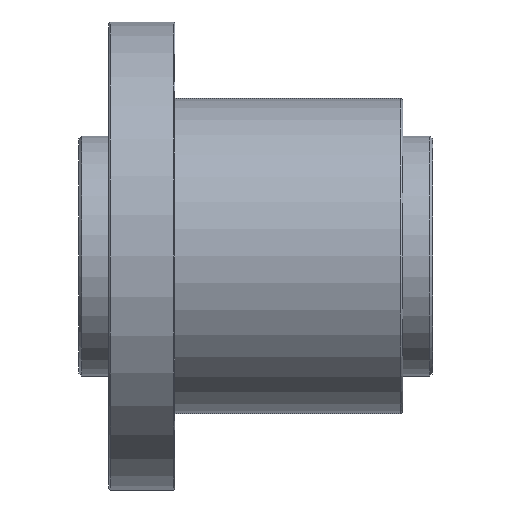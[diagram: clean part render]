
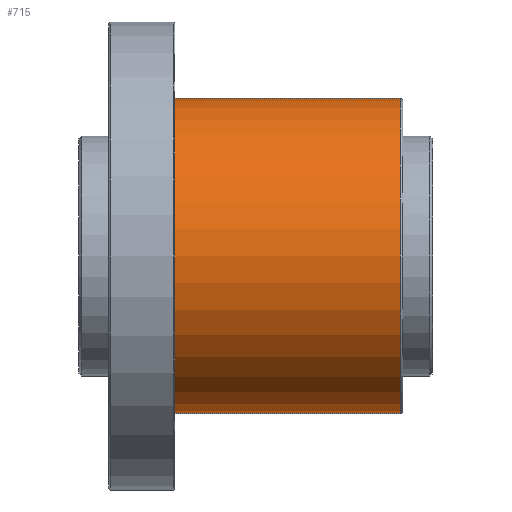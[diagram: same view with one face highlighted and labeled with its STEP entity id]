
A CAD part, front view. The second image highlights one B-rep face of the part: STEP entity #715.
In plain terms, the highlighted cylindrical face has radius 52.5 mm (diameter 105 mm), a partial arc.
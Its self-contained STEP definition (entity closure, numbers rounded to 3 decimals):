
#40 = ORIENTED_EDGE ( 'NONE', *, *, #1854, .F. ) ;
#116 = DIRECTION ( 'NONE',  ( -1., 0., 0. ) ) ;
#139 = CIRCLE ( 'NONE', #3194, 52.5 ) ;
#243 = DIRECTION ( 'NONE',  ( 0., 0., -1. ) ) ;
#434 = CARTESIAN_POINT ( 'NONE',  ( 22., 0., -52.5 ) ) ;
#540 = DIRECTION ( 'NONE',  ( -1., 0., 0. ) ) ;
#585 = LINE ( 'NONE', #2784, #3125 ) ;
#624 = EDGE_LOOP ( 'NONE', ( #3694, #3018, #1957, #40 ) ) ;
#715 = ADVANCED_FACE ( 'NONE', ( #1474 ), #2132, .T. ) ;
#1147 = LINE ( 'NONE', #1380, #3357 ) ;
#1225 = CARTESIAN_POINT ( 'NONE',  ( 22., 0., 52.5 ) ) ;
#1238 = DIRECTION ( 'NONE',  ( -1., 0., 0. ) ) ;
#1380 = CARTESIAN_POINT ( 'NONE',  ( 98., 0., -52.5 ) ) ;
#1474 = FACE_OUTER_BOUND ( 'NONE', #624, .T. ) ;
#1620 = EDGE_CURVE ( 'NONE', #3139, #3352, #585, .T. ) ;
#1660 = CARTESIAN_POINT ( 'NONE',  ( 97., 0., 52.5 ) ) ;
#1854 = EDGE_CURVE ( 'NONE', #2247, #3352, #139, .T. ) ;
#1900 = EDGE_CURVE ( 'NONE', #2870, #3139, #2977, .T. ) ;
#1949 = AXIS2_PLACEMENT_3D ( 'NONE', #2714, #3938, #243 ) ;
#1957 = ORIENTED_EDGE ( 'NONE', *, *, #1620, .T. ) ;
#2064 = AXIS2_PLACEMENT_3D ( 'NONE', #3078, #3390, #3106 ) ;
#2132 = CYLINDRICAL_SURFACE ( 'NONE', #2064, 52.5 ) ;
#2247 = VERTEX_POINT ( 'NONE', #434 ) ;
#2330 = EDGE_CURVE ( 'NONE', #2870, #2247, #1147, .T. ) ;
#2405 = CARTESIAN_POINT ( 'NONE',  ( 22., 0., 0. ) ) ;
#2704 = DIRECTION ( 'NONE',  ( 0., 0., 1. ) ) ;
#2714 = CARTESIAN_POINT ( 'NONE',  ( 97., 0., 0. ) ) ;
#2784 = CARTESIAN_POINT ( 'NONE',  ( 98., 0., 52.5 ) ) ;
#2870 = VERTEX_POINT ( 'NONE', #3443 ) ;
#2977 = CIRCLE ( 'NONE', #1949, 52.5 ) ;
#3018 = ORIENTED_EDGE ( 'NONE', *, *, #1900, .T. ) ;
#3078 = CARTESIAN_POINT ( 'NONE',  ( 98., 0., 0. ) ) ;
#3106 = DIRECTION ( 'NONE',  ( 0., 0., 1. ) ) ;
#3125 = VECTOR ( 'NONE', #1238, 1000. ) ;
#3139 = VERTEX_POINT ( 'NONE', #1660 ) ;
#3194 = AXIS2_PLACEMENT_3D ( 'NONE', #2405, #540, #2704 ) ;
#3352 = VERTEX_POINT ( 'NONE', #1225 ) ;
#3357 = VECTOR ( 'NONE', #116, 1000. ) ;
#3390 = DIRECTION ( 'NONE',  ( -1., 0., 0. ) ) ;
#3443 = CARTESIAN_POINT ( 'NONE',  ( 97., 0., -52.5 ) ) ;
#3694 = ORIENTED_EDGE ( 'NONE', *, *, #2330, .F. ) ;
#3938 = DIRECTION ( 'NONE',  ( -1., 0., 0. ) ) ;
